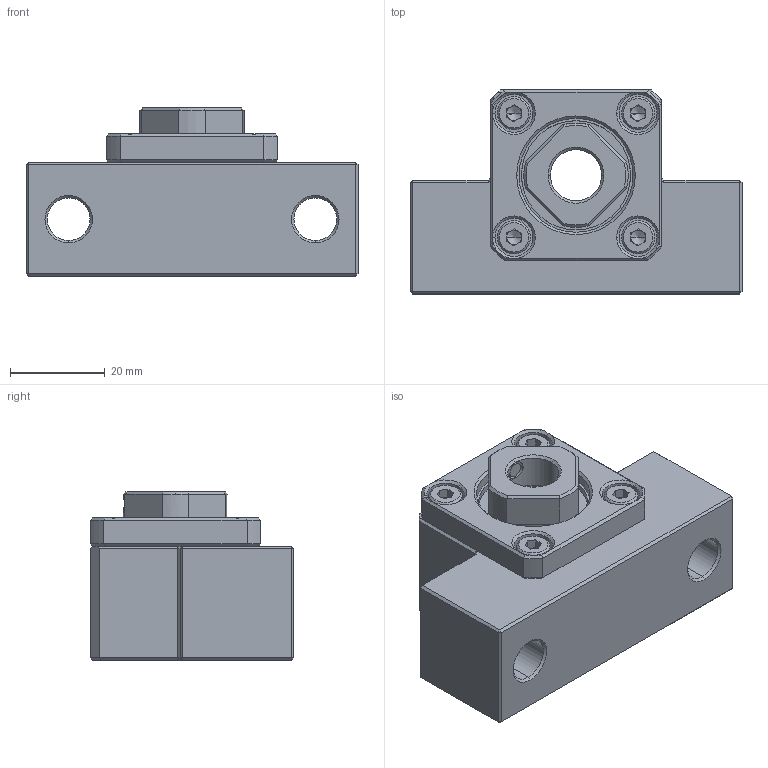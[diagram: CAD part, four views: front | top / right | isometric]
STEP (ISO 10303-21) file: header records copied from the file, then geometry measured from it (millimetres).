
FILE_DESCRIPTION (( 'STEP AP203' ), '1' );
FILE_NAME ('EK12.STEP', '2013-09-11T08:53:44', ( 'MYCOM' ), ( '' ), 'SwSTEP 2.0', 'SolidWorks 2012', '' );
FILE_SCHEMA (( 'CONFIG_CONTROL_DESIGN' ));
Length unit declared in the file: millimetre
Products named in the file (1): EK12
Bounding box: 70 x 43 x 35.5 mm (x, y, z)
Volume: 54327.2 mm3; surface area: 27718.8 mm2
Topology: 37 solids, 37 shells, 485 faces, 1155 edges, 658 vertices
Faces by surface type: plane 179, cone 117, cylinder 109, bspline 72, torus 8
Entity records: 14939 total; most frequent: CARTESIAN_POINT 4278, DIRECTION 2299, ORIENTED_EDGE 2102, EDGE_CURVE 1051, AXIS2_PLACEMENT_3D 912, VERTEX_POINT 658, EDGE_LOOP 535, CIRCLE 498
